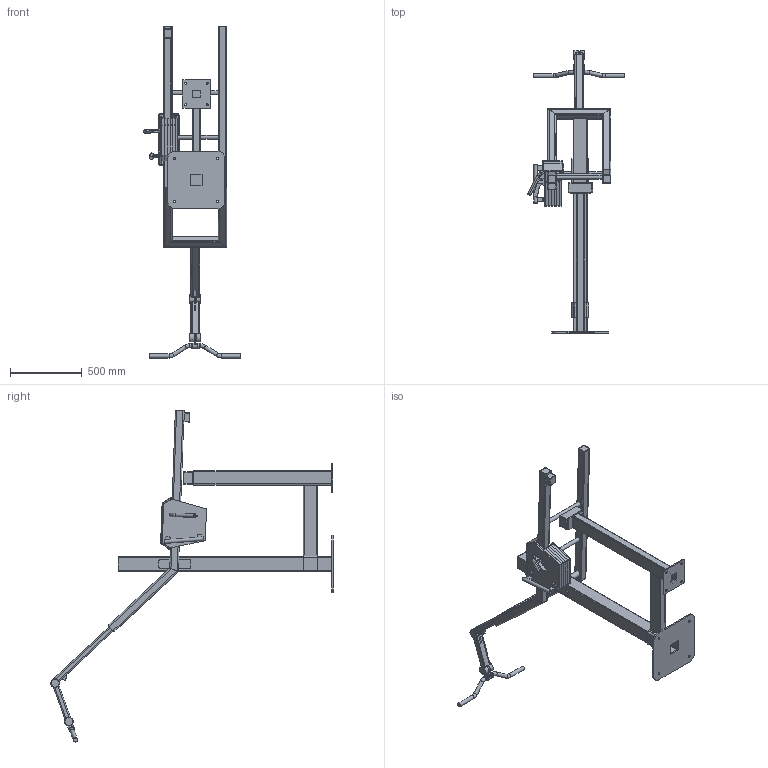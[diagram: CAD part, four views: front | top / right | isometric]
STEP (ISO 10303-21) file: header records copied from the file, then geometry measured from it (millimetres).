
FILE_DESCRIPTION(/* description */ (''),/* implementation_level */ '2;1');
FILE_NAME(/* name */ 'OG80_3D_Low.step',/* time_stamp */ '2025-11-11T16:03:05+02:00',/* author */ (''),/* organization */ (''),/* preprocessor_version */ 'ST-DEVELOPER v20.1',/* originating_system */ 'Autodesk Translation Framework v14.21.0.0',/* authorisation */ '');
FILE_SCHEMA (('AUTOMOTIVE_DESIGN { 1 0 10303 214 3 1 1 }'));
Length unit declared in the file: millimetre
Products named in the file (1): OG80_3D_Low
Bounding box: 677.38 x 1969.95 x 2316.13 mm (x, y, z)
Volume: 19425517.4 mm3; surface area: 5820663.8 mm2
Topology: 48 solids, 48 shells, 831 faces, 2015 edges, 1291 vertices
Faces by surface type: plane 447, cylinder 332, torus 27, cone 10, sphere 8, bspline 7
Full cylindrical faces by diameter (mm): 11.8 x1, 13 x17, 14 x4, 16 x4, 25 x1, 28 x7, 28.5 x3, 29 x4, 31 x5, 38.5 x3, 40 x2, 60 x4
Entity records: 25219 total; most frequent: CARTESIAN_POINT 4981, DIRECTION 4303, ORIENTED_EDGE 4030, EDGE_CURVE 2015, AXIS2_PLACEMENT_3D 1517, VERTEX_POINT 1291, LINE 1269, VECTOR 1269
